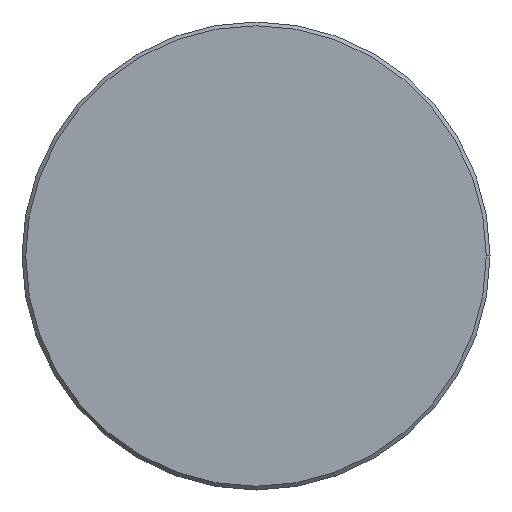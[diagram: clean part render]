
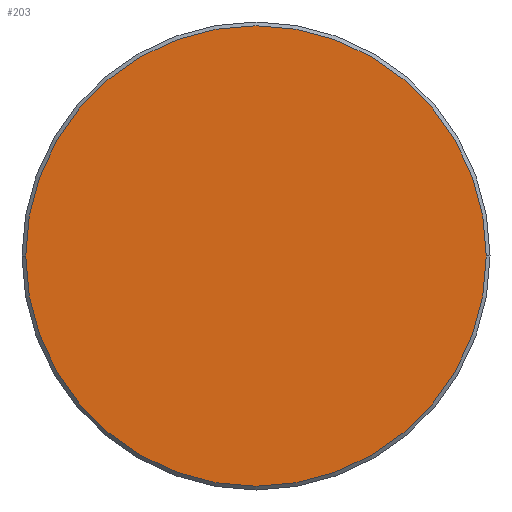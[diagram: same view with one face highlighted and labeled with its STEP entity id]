
A CAD part, left-side view. The second image highlights one B-rep face of the part: STEP entity #203.
In plain terms, the highlighted planar face has unit normal (-1, 0, 0).
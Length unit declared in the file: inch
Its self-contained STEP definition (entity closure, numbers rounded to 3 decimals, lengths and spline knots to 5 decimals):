
#9 = CARTESIAN_POINT ( 'NONE',  ( 0., 0.246, 0. ) ) ;
#12 = DIRECTION ( 'NONE',  ( 0., -1., 0. ) ) ;
#20 = ORIENTED_EDGE ( 'NONE', *, *, #281, .T. ) ;
#21 = ORIENTED_EDGE ( 'NONE', *, *, #252, .T. ) ;
#43 = CARTESIAN_POINT ( 'NONE',  ( 0., 0., 0. ) ) ;
#49 = FACE_OUTER_BOUND ( 'NONE', #271, .T. ) ;
#85 = PLANE ( 'NONE',  #373 ) ;
#135 = VERTEX_POINT ( 'NONE', #9 ) ;
#203 = ADVANCED_FACE ( 'NONE', ( #49 ), #85, .T. ) ;
#230 = AXIS2_PLACEMENT_3D ( 'NONE', #43, #306, #12 ) ;
#236 = DIRECTION ( 'NONE',  ( -1., 0., 0. ) ) ;
#252 = EDGE_CURVE ( 'NONE', #135, #340, #258, .T. ) ;
#258 = CIRCLE ( 'NONE', #230, 0.246 ) ;
#267 = CARTESIAN_POINT ( 'NONE',  ( 0., 0., 0. ) ) ;
#271 = EDGE_LOOP ( 'NONE', ( #21, #20 ) ) ;
#273 = CARTESIAN_POINT ( 'NONE',  ( 0., 0., 0. ) ) ;
#281 = EDGE_CURVE ( 'NONE', #340, #135, #378, .T. ) ;
#299 = DIRECTION ( 'NONE',  ( 0., -1., 0. ) ) ;
#306 = DIRECTION ( 'NONE',  ( -1., 0., 0. ) ) ;
#329 = AXIS2_PLACEMENT_3D ( 'NONE', #273, #333, #365 ) ;
#333 = DIRECTION ( 'NONE',  ( -1., 0., 0. ) ) ;
#337 = CARTESIAN_POINT ( 'NONE',  ( 0., -0.246, 0. ) ) ;
#340 = VERTEX_POINT ( 'NONE', #337 ) ;
#365 = DIRECTION ( 'NONE',  ( 0., -1., 0. ) ) ;
#373 = AXIS2_PLACEMENT_3D ( 'NONE', #267, #236, #299 ) ;
#378 = CIRCLE ( 'NONE', #329, 0.246 ) ;
